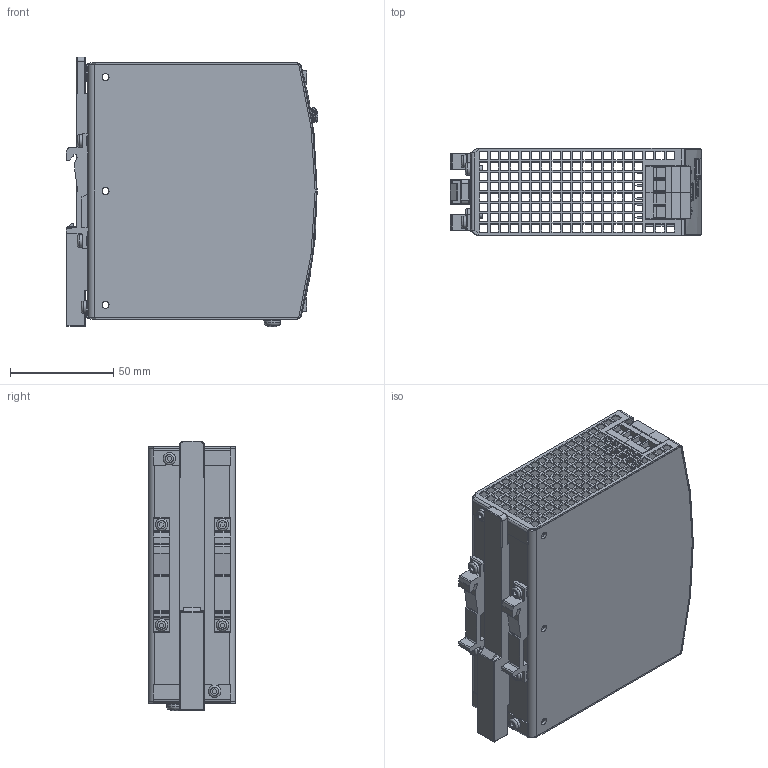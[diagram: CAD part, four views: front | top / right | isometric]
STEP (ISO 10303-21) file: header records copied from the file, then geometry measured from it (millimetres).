
FILE_DESCRIPTION(/* description */ (''),/* implementation_level */ '2;1');
FILE_NAME(/* name */ 'C:\Vault-Work\Vault\Designs\MARKETING\Internet\400-449\421.00\md3_cp10_482.stp',/* time_stamp */ '2018-07-13T10:20:43+02:00',/* author */ ('rahns'),/* organization */ (''),/* preprocessor_version */ 'ST-DEVELOPER v17',/* originating_system */ 'Autodesk Inventor 2018',/* authorisation */ '');
FILE_SCHEMA (('AUTOMOTIVE_DESIGN { 1 0 10303 214 3 1 1 }'));
Products named in the file (13): 421.05; HOUSING BODY 421.00; MKT_SLIDER; MKT_T HOLDER1; HOUSING COVER 421.00; MKT_SCREW 3x6; FRONTFOIL 421.05; MKT_LED GN; MKT_POTI COVER; MKT_LP2BK-D1; MKT_LP3BK-D2; MKT_SCREW 4x8; MKT_WASHER 4
Assembly tree (19 placements, depth 2):
  421.05
    HOUSING BODY 421.00
    MKT_SLIDER
    MKT_T HOLDER1  x2
    MKT_SCREW 3x6  x6
    HOUSING COVER 421.00
    FRONTFOIL 421.05
    MKT_LED GN
    MKT_POTI COVER
    MKT_LP2BK-D1  x2
    MKT_LP3BK-D2
    MKT_SCREW 4x8
    MKT_WASHER 4
Bounding box: 121.97 x 42 x 130.77 mm (x, y, z)
Volume: 78482 mm3; surface area: 109369.9 mm2
Topology: 20 solids, 20 shells, 2644 faces, 7407 edges, 4916 vertices
Faces by surface type: plane 1978, bspline 350, cylinder 258, torus 25, cone 20, sphere 13
Full cylindrical faces by diameter (mm): 2.45 x2, 3 x6, 3.1 x4, 3.4 x6, 3.621 x1, 4 x1, 4.355 x1, 4.5 x2, 4.6 x1, 5.15 x7, 6 x6
Entity records: 91627 total; most frequent: CARTESIAN_POINT 29268, ORIENTED_EDGE 13568, DIRECTION 10980, EDGE_CURVE 6784, LINE 5244, VECTOR 5244, VERTEX_POINT 4500, EDGE_LOOP 3074
